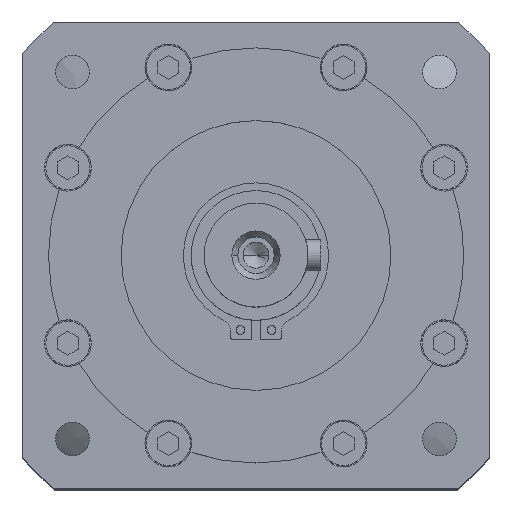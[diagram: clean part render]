
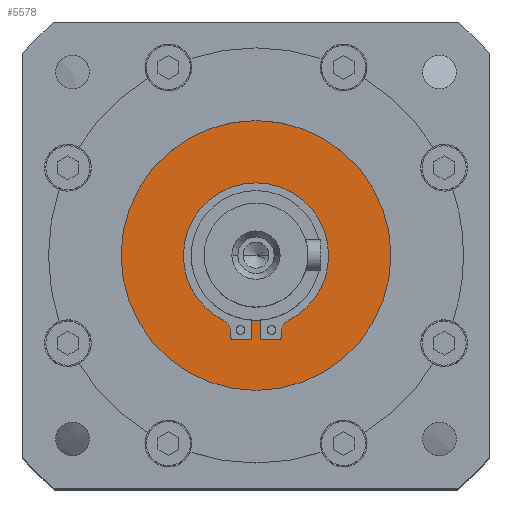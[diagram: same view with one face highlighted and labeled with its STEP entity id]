
A CAD part, top view. The second image highlights one B-rep face of the part: STEP entity #5578.
In plain terms, the highlighted planar face has unit normal (0, 0, 1).
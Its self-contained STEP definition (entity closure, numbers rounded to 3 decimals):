
#236 = CARTESIAN_POINT ( 'NONE',  ( 0., 0., -2.5 ) ) ;
#430 = CARTESIAN_POINT ( 'NONE',  ( 0.85, -16.271, -2.5 ) ) ;
#829 = CARTESIAN_POINT ( 'NONE',  ( 14., 0., -2.5 ) ) ;
#996 = DIRECTION ( 'NONE',  ( 0., 0., 1. ) ) ;
#1118 = DIRECTION ( 'NONE',  ( 0., 0., -1. ) ) ;
#1148 = VERTEX_POINT ( 'NONE', #2009 ) ;
#1195 = DIRECTION ( 'NONE',  ( 0., -1., 0. ) ) ;
#1246 = DIRECTION ( 'NONE',  ( 0., -1., 0. ) ) ;
#1739 = CARTESIAN_POINT ( 'NONE',  ( 0., 0., -2.5 ) ) ;
#2009 = CARTESIAN_POINT ( 'NONE',  ( 0.85, -12.471, -2.5 ) ) ;
#2088 = CARTESIAN_POINT ( 'NONE',  ( -14., 0., -2.5 ) ) ;
#2168 = DIRECTION ( 'NONE',  ( -1., 0., 0. ) ) ;
#2286 = LINE ( 'NONE', #23867, #21792 ) ;
#2732 = VERTEX_POINT ( 'NONE', #16039 ) ;
#2875 = ORIENTED_EDGE ( 'NONE', *, *, #11773, .F. ) ;
#2909 = AXIS2_PLACEMENT_3D ( 'NONE', #18773, #3574, #22555 ) ;
#3045 = CARTESIAN_POINT ( 'NONE',  ( 0., 0., -2.5 ) ) ;
#3365 = VERTEX_POINT ( 'NONE', #10117 ) ;
#3381 = CARTESIAN_POINT ( 'NONE',  ( -4.85, -15.771, -2.5 ) ) ;
#3392 = AXIS2_PLACEMENT_3D ( 'NONE', #3045, #16253, #4957 ) ;
#3412 = EDGE_CURVE ( 'NONE', #20848, #13151, #14335, .T. ) ;
#3509 = CARTESIAN_POINT ( 'NONE',  ( 4.85, -15.771, -2.5 ) ) ;
#3574 = DIRECTION ( 'NONE',  ( 0., 0., -1. ) ) ;
#3596 = VECTOR ( 'NONE', #20250, 1000. ) ;
#3641 = DIRECTION ( 'NONE',  ( -1., 0., 0. ) ) ;
#3791 = ORIENTED_EDGE ( 'NONE', *, *, #7883, .F. ) ;
#3876 = DIRECTION ( 'NONE',  ( 0., 0., 1. ) ) ;
#4259 = ORIENTED_EDGE ( 'NONE', *, *, #23490, .F. ) ;
#4362 = AXIS2_PLACEMENT_3D ( 'NONE', #12361, #996, #14228 ) ;
#4404 = EDGE_CURVE ( 'NONE', #17688, #2732, #18140, .T. ) ;
#4488 = EDGE_CURVE ( 'NONE', #3365, #23806, #11977, .T. ) ;
#4561 = VERTEX_POINT ( 'NONE', #11679 ) ;
#4645 = ORIENTED_EDGE ( 'NONE', *, *, #4488, .T. ) ;
#4787 = CIRCLE ( 'NONE', #10705, 12.5 ) ;
#4957 = DIRECTION ( 'NONE',  ( -1., 0., 0. ) ) ;
#5173 = VECTOR ( 'NONE', #1195, 1000. ) ;
#5578 = ADVANCED_FACE ( 'NONE', ( #7208, #12266 ), #9381, .F. ) ;
#5755 = CARTESIAN_POINT ( 'NONE',  ( -4.35, -15.771, -2.5 ) ) ;
#6178 = VECTOR ( 'NONE', #13676, 1000. ) ;
#6201 = AXIS2_PLACEMENT_3D ( 'NONE', #17912, #6605, #19827 ) ;
#6271 = AXIS2_PLACEMENT_3D ( 'NONE', #12464, #1118, #14343 ) ;
#6294 = CARTESIAN_POINT ( 'NONE',  ( -26., 0., -2.5 ) ) ;
#6574 = ORIENTED_EDGE ( 'NONE', *, *, #3412, .F. ) ;
#6605 = DIRECTION ( 'NONE',  ( 0., 0., 1. ) ) ;
#7037 = CARTESIAN_POINT ( 'NONE',  ( -0.85, -16.271, -2.5 ) ) ;
#7208 = FACE_OUTER_BOUND ( 'NONE', #8520, .T. ) ;
#7267 = VERTEX_POINT ( 'NONE', #21664 ) ;
#7296 = EDGE_CURVE ( 'NONE', #22471, #17688, #23693, .T. ) ;
#7318 = AXIS2_PLACEMENT_3D ( 'NONE', #18667, #7360, #20575 ) ;
#7360 = DIRECTION ( 'NONE',  ( 0., 0., -1. ) ) ;
#7571 = DIRECTION ( 'NONE',  ( 0., 0., 1. ) ) ;
#7671 = DIRECTION ( 'NONE',  ( -1., 0., 0. ) ) ;
#7883 = EDGE_CURVE ( 'NONE', #14345, #22471, #10422, .T. ) ;
#8520 = EDGE_LOOP ( 'NONE', ( #4645, #19736 ) ) ;
#8604 = AXIS2_PLACEMENT_3D ( 'NONE', #15203, #3876, #17092 ) ;
#8854 = EDGE_CURVE ( 'NONE', #7267, #14345, #18042, .T. ) ;
#8871 = CARTESIAN_POINT ( 'NONE',  ( 4.85, -15.771, -2.5 ) ) ;
#9381 = PLANE ( 'NONE',  #2909 ) ;
#10117 = CARTESIAN_POINT ( 'NONE',  ( 26., 0., -2.5 ) ) ;
#10175 = AXIS2_PLACEMENT_3D ( 'NONE', #1739, #14987, #3641 ) ;
#10422 = CIRCLE ( 'NONE', #3392, 14. ) ;
#10446 = EDGE_CURVE ( 'NONE', #19071, #20848, #10632, .T. ) ;
#10632 = LINE ( 'NONE', #430, #6178 ) ;
#10652 = CARTESIAN_POINT ( 'NONE',  ( -4.85, -15.771, -2.5 ) ) ;
#10705 = AXIS2_PLACEMENT_3D ( 'NONE', #18872, #7571, #20771 ) ;
#10787 = CARTESIAN_POINT ( 'NONE',  ( 4.35, -16.271, -2.5 ) ) ;
#11189 = DIRECTION ( 'NONE',  ( 0., 1., 0. ) ) ;
#11668 = ORIENTED_EDGE ( 'NONE', *, *, #7296, .F. ) ;
#11679 = CARTESIAN_POINT ( 'NONE',  ( 4.85, -14.773, -2.5 ) ) ;
#11773 = EDGE_CURVE ( 'NONE', #1148, #19071, #2286, .T. ) ;
#11837 = VERTEX_POINT ( 'NONE', #3381 ) ;
#11871 = ORIENTED_EDGE ( 'NONE', *, *, #15908, .F. ) ;
#11977 = CIRCLE ( 'NONE', #8604, 26. ) ;
#12266 = FACE_BOUND ( 'NONE', #12398, .T. ) ;
#12361 = CARTESIAN_POINT ( 'NONE',  ( 0., 0., -2.5 ) ) ;
#12398 = EDGE_LOOP ( 'NONE', ( #19237, #11871, #17443, #19668, #22371, #11668, #3791, #23341, #13777, #4259, #6574, #13247, #2875, #16855 ) ) ;
#12464 = CARTESIAN_POINT ( 'NONE',  ( 7.35, -14.773, -2.5 ) ) ;
#12624 = VECTOR ( 'NONE', #11189, 1000. ) ;
#12743 = EDGE_CURVE ( 'NONE', #19803, #16884, #23228, .T. ) ;
#13151 = VERTEX_POINT ( 'NONE', #3509 ) ;
#13180 = LINE ( 'NONE', #8871, #20846 ) ;
#13247 = ORIENTED_EDGE ( 'NONE', *, *, #10446, .F. ) ;
#13485 = DIRECTION ( 'NONE',  ( 0., 0., 1. ) ) ;
#13671 = LINE ( 'NONE', #7037, #3596 ) ;
#13676 = DIRECTION ( 'NONE',  ( 1., 0., 0. ) ) ;
#13777 = ORIENTED_EDGE ( 'NONE', *, *, #17789, .F. ) ;
#14228 = DIRECTION ( 'NONE',  ( -1., 0., 0. ) ) ;
#14335 = CIRCLE ( 'NONE', #6201, 0.5 ) ;
#14343 = DIRECTION ( 'NONE',  ( 1., 0., 0. ) ) ;
#14345 = VERTEX_POINT ( 'NONE', #829 ) ;
#14562 = DIRECTION ( 'NONE',  ( 0., 1., 0. ) ) ;
#14618 = LINE ( 'NONE', #10652, #5173 ) ;
#14987 = DIRECTION ( 'NONE',  ( 0., 0., 1. ) ) ;
#15203 = CARTESIAN_POINT ( 'NONE',  ( 0., 0., -2.5 ) ) ;
#15552 = CARTESIAN_POINT ( 'NONE',  ( -4.35, -16.271, -2.5 ) ) ;
#15908 = EDGE_CURVE ( 'NONE', #21172, #19803, #13671, .T. ) ;
#16039 = CARTESIAN_POINT ( 'NONE',  ( -4.85, -14.773, -2.5 ) ) ;
#16253 = DIRECTION ( 'NONE',  ( 0., 0., 1. ) ) ;
#16516 = EDGE_CURVE ( 'NONE', #16884, #1148, #4787, .T. ) ;
#16722 = AXIS2_PLACEMENT_3D ( 'NONE', #236, #13485, #2168 ) ;
#16855 = ORIENTED_EDGE ( 'NONE', *, *, #16516, .F. ) ;
#16884 = VERTEX_POINT ( 'NONE', #20815 ) ;
#17092 = DIRECTION ( 'NONE',  ( -1., 0., 0. ) ) ;
#17443 = ORIENTED_EDGE ( 'NONE', *, *, #24120, .F. ) ;
#17688 = VERTEX_POINT ( 'NONE', #23506 ) ;
#17789 = EDGE_CURVE ( 'NONE', #4561, #7267, #23346, .T. ) ;
#17912 = CARTESIAN_POINT ( 'NONE',  ( 4.35, -15.771, -2.5 ) ) ;
#18042 = CIRCLE ( 'NONE', #16722, 14. ) ;
#18140 = CIRCLE ( 'NONE', #7318, 2.5 ) ;
#18667 = CARTESIAN_POINT ( 'NONE',  ( -7.35, -14.773, -2.5 ) ) ;
#18773 = CARTESIAN_POINT ( 'NONE',  ( 0., 0., -2.5 ) ) ;
#18872 = CARTESIAN_POINT ( 'NONE',  ( 0., 0., -2.5 ) ) ;
#18962 = DIRECTION ( 'NONE',  ( 0., 0., 1. ) ) ;
#19071 = VERTEX_POINT ( 'NONE', #22011 ) ;
#19237 = ORIENTED_EDGE ( 'NONE', *, *, #12743, .F. ) ;
#19668 = ORIENTED_EDGE ( 'NONE', *, *, #24430, .F. ) ;
#19670 = CIRCLE ( 'NONE', #10175, 26. ) ;
#19736 = ORIENTED_EDGE ( 'NONE', *, *, #22391, .T. ) ;
#19803 = VERTEX_POINT ( 'NONE', #24420 ) ;
#19827 = DIRECTION ( 'NONE',  ( 1., 0., 0. ) ) ;
#20250 = DIRECTION ( 'NONE',  ( 1., 0., 0. ) ) ;
#20575 = DIRECTION ( 'NONE',  ( -1., 0., 0. ) ) ;
#20771 = DIRECTION ( 'NONE',  ( -1., 0., 0. ) ) ;
#20815 = CARTESIAN_POINT ( 'NONE',  ( -0.85, -12.471, -2.5 ) ) ;
#20846 = VECTOR ( 'NONE', #14562, 1000. ) ;
#20848 = VERTEX_POINT ( 'NONE', #10787 ) ;
#21172 = VERTEX_POINT ( 'NONE', #15552 ) ;
#21664 = CARTESIAN_POINT ( 'NONE',  ( 6.236, -12.534, -2.5 ) ) ;
#21710 = AXIS2_PLACEMENT_3D ( 'NONE', #5755, #18962, #7671 ) ;
#21792 = VECTOR ( 'NONE', #1246, 1000. ) ;
#22011 = CARTESIAN_POINT ( 'NONE',  ( 0.85, -16.271, -2.5 ) ) ;
#22371 = ORIENTED_EDGE ( 'NONE', *, *, #4404, .F. ) ;
#22391 = EDGE_CURVE ( 'NONE', #23806, #3365, #19670, .T. ) ;
#22471 = VERTEX_POINT ( 'NONE', #2088 ) ;
#22555 = DIRECTION ( 'NONE',  ( 0., -1., 0. ) ) ;
#23184 = CIRCLE ( 'NONE', #21710, 0.5 ) ;
#23228 = LINE ( 'NONE', #24316, #12624 ) ;
#23341 = ORIENTED_EDGE ( 'NONE', *, *, #8854, .F. ) ;
#23346 = CIRCLE ( 'NONE', #6271, 2.5 ) ;
#23490 = EDGE_CURVE ( 'NONE', #13151, #4561, #13180, .T. ) ;
#23506 = CARTESIAN_POINT ( 'NONE',  ( -6.236, -12.534, -2.5 ) ) ;
#23693 = CIRCLE ( 'NONE', #4362, 14. ) ;
#23806 = VERTEX_POINT ( 'NONE', #6294 ) ;
#23867 = CARTESIAN_POINT ( 'NONE',  ( 0.85, -16.271, -2.5 ) ) ;
#24120 = EDGE_CURVE ( 'NONE', #11837, #21172, #23184, .T. ) ;
#24316 = CARTESIAN_POINT ( 'NONE',  ( -0.85, -16.271, -2.5 ) ) ;
#24420 = CARTESIAN_POINT ( 'NONE',  ( -0.85, -16.271, -2.5 ) ) ;
#24430 = EDGE_CURVE ( 'NONE', #2732, #11837, #14618, .T. ) ;
